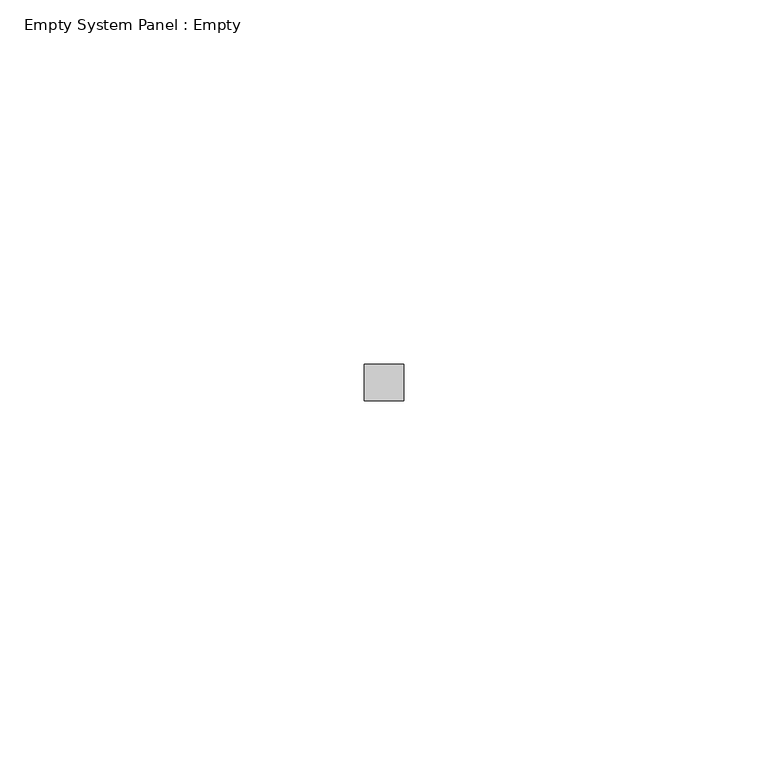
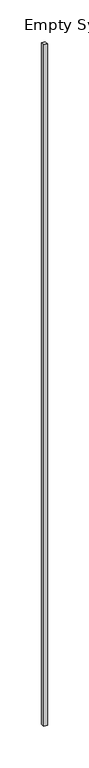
"""IFC4 building model written with IfcOpenShell, lengths in millimetres: plate geometry, Empty System Panel : Empty."""

import ifcopenshell
import ifcopenshell.guid

model = None  # the IFC model being written
_history = None  # IfcOwnerHistory: only IFC2X3 demands one
_inside = {}  # id of a spatial element -> (the spatial element, [elements in it])
_under = {}  # id of a project, library or spatial element -> (it, [spatial elements below it])
_declared = {}  # id of a project -> (the project, [libraries it declares])
_typed = {}  # id of a type object -> (the type object, [elements of that type])
_made_of = {}  # id of a material, layer set ... -> (it, [elements and type objects made of it])


def new_model(schema):
    """Start an empty IFC model of exactly this schema.

    Asked for "IFC4X3", IfcOpenShell would pick the latest addendum, in which some entities
    have other attributes; the version numbers below select the first issue.
    IFC2X3 requires an IfcOwnerHistory on every rooted entity: one is made here for all.
    """
    global model, _history
    if schema == "IFC4X3":
        model = ifcopenshell.file(schema_version=(4, 3, 0, 0))
    else:
        model = ifcopenshell.file(schema=schema)
    _inside.clear()
    _under.clear()
    _declared.clear()
    _typed.clear()
    _made_of.clear()
    _history = None
    if model.schema == "IFC2X3":
        org = make("IfcOrganization", Name="unknown")
        user = make(
            "IfcPersonAndOrganization",
            ThePerson=make("IfcPerson", FamilyName="unknown"),
            TheOrganization=org,
        )
        app = make(
            "IfcApplication",
            ApplicationDeveloper=org,
            Version="unknown",
            ApplicationFullName="unknown",
            ApplicationIdentifier="unknown",
        )
        _history = make(
            "IfcOwnerHistory",
            OwningUser=user,
            OwningApplication=app,
            ChangeAction="ADDED",
            CreationDate=0,
        )
    return model


def make(cls, **values):
    """One entity of the class cls with the attributes given. An attribute that is None is left unset."""
    return model.create_entity(
        cls, **{name: value for name, value in values.items() if value is not None}
    )


def rooted(cls, **values):
    """An entity with a GlobalId (a new one), such as an element, a storey or a relation."""
    return make(cls, GlobalId=ifcopenshell.guid.new(), OwnerHistory=_history, **values)


def si_unit(unit_type, name, prefix=None):
    """IfcSIUnit, for example si_unit("LENGTHUNIT", "METRE", prefix="MILLI")."""
    return make("IfcSIUnit", UnitType=unit_type, Prefix=prefix, Name=name)


def assignment(units):
    """IfcUnitAssignment: the units of a project."""
    return None if units is None else make("IfcUnitAssignment", Units=units)


def point(xyz):
    """IfcCartesianPoint."""
    return None if xyz is None else make("IfcCartesianPoint", Coordinates=xyz)


def direction(xyz):
    """IfcDirection."""
    return None if xyz is None else make("IfcDirection", DirectionRatios=xyz)


def frame(location, z_axis=None, x_axis=None):
    """IfcAxis2Placement3D, a coordinate frame: its origin and axes. An axis left out is left unset."""
    return make(
        "IfcAxis2Placement3D",
        Location=point(location),
        Axis=direction(z_axis),
        RefDirection=direction(x_axis),
    )


def origin():
    """The frame at (0, 0, 0) with its axes left unset."""
    return frame((0.0, 0.0, 0.0))


def origin_with_axes():
    """The frame at (0, 0, 0) with the z axis (0, 0, 1) and the x axis (1, 0, 0) written out."""
    return frame((0.0, 0.0, 0.0), z_axis=(0.0, 0.0, 1.0), x_axis=(1.0, 0.0, 0.0))


def place(relative_to, where):
    """IfcLocalPlacement: puts the frame where relative to a parent placement (None: the world)."""
    return make(
        "IfcLocalPlacement", PlacementRelTo=relative_to, RelativePlacement=where
    )


def context(
    kind, dimensions, precision=None, world=None, true_north=None, identifier=None
):
    """IfcGeometricRepresentationContext, for example the 3D "Model" context."""
    return make(
        "IfcGeometricRepresentationContext",
        ContextIdentifier=identifier,
        ContextType=kind,
        CoordinateSpaceDimension=dimensions,
        Precision=precision,
        WorldCoordinateSystem=world,
        TrueNorth=true_north,
    )


def project(units=None, contexts=None):
    """IfcProject with its units and contexts."""
    return rooted(
        "IfcProject",
        Name="project",
        RepresentationContexts=contexts,
        UnitsInContext=assignment(units),
    )


def spatial(cls, under=None, at=None, **own):
    """A site, building, storey or space (cls), placed at a placement, below another one or the project."""
    s = rooted(cls, ObjectPlacement=at, **own)
    if under is not None:
        _under.setdefault(under.id(), (under, []))[1].append(s)
    return s


def polyline(points):
    """IfcPolyline through the points."""
    return make("IfcPolyline", Points=[point(p) for p in points])


def outline(outer, holes=None, kind="AREA"):
    """IfcArbitraryClosedProfileDef: a profile drawn as a closed curve; with holes, ...WithVoids."""
    if holes is None:
        return make("IfcArbitraryClosedProfileDef", ProfileType=kind, OuterCurve=outer)
    return make(
        "IfcArbitraryProfileDefWithVoids",
        ProfileType=kind,
        OuterCurve=outer,
        InnerCurves=holes,
    )


def extrude(swept, where, along, depth):
    """IfcExtrudedAreaSolid: the profile swept, set in the frame where, extruded along a direction by depth."""
    return make(
        "IfcExtrudedAreaSolid",
        SweptArea=swept,
        Position=where,
        ExtrudedDirection=direction(along),
        Depth=depth,
    )


def shape(context_of_items, identifier, shape_type, items):
    """IfcShapeRepresentation: the items that make up one representation, for example the "Body"."""
    return make(
        "IfcShapeRepresentation",
        ContextOfItems=context_of_items,
        RepresentationIdentifier=identifier,
        RepresentationType=shape_type,
        Items=items,
    )


def source(mapping_origin, context_of_items, identifier, shape_type, items):
    """IfcRepresentationMap: a shape defined once, which mapped items show again and again."""
    return make(
        "IfcRepresentationMap",
        MappingOrigin=mapping_origin,
        MappedRepresentation=shape(context_of_items, identifier, shape_type, items),
    )


def transform(
    local_origin,
    x_axis=None,
    y_axis=None,
    z_axis=None,
    scale=None,
    scale2=None,
    scale3=None,
    uniform=True,
):
    """IfcCartesianTransformationOperator3D, or its non-uniform kind. x_axis, y_axis, z_axis: its Axis1, 2, 3."""
    if uniform:
        return make(
            "IfcCartesianTransformationOperator3D",
            Axis1=direction(x_axis),
            Axis2=direction(y_axis),
            LocalOrigin=point(local_origin),
            Scale=scale,
            Axis3=direction(z_axis),
        )
    return make(
        "IfcCartesianTransformationOperator3DnonUniform",
        Axis1=direction(x_axis),
        Axis2=direction(y_axis),
        LocalOrigin=point(local_origin),
        Scale=scale,
        Axis3=direction(z_axis),
        Scale2=scale2,
        Scale3=scale3,
    )


def mapped(mapping_source, mapping_target):
    """IfcMappedItem: shows the shape of a source again, moved by a transform."""
    return make(
        "IfcMappedItem", MappingSource=mapping_source, MappingTarget=mapping_target
    )


def made_of(thing, what):
    """Note that an element or type object is made of a material, layer set ...; save() writes the relation."""
    if what is not None:
        _made_of.setdefault(what.id(), (what, []))[1].append(thing)
    return thing


def element(
    cls,
    number,
    at=None,
    inside=None,
    cuts=None,
    type_object=None,
    material=None,
    context=None,
    identifier="Body",
    shape_type=None,
    held_by="IfcProductDefinitionShape",
    body=None,
    shapes=None,
    **own,
):
    """One element of the class cls, such as IfcWall. Its Tag is "e" and its number.

    at: its placement. inside: the storey or other place that contains it. cuts: it is an
    opening in that element (IfcRelVoidsElement). A single representation is given by context,
    identifier, shape_type and body (its items); several are given by shapes. held_by: the class
    of the entity that holds the representations. save() writes the other relations.
    """
    e = rooted(cls, Tag="e%d" % number, ObjectPlacement=at, **own)
    if body is not None:
        shapes = [shape(context, identifier, shape_type, body)]
    if shapes is not None:
        e.Representation = make(held_by, Representations=shapes)
    if inside is not None:
        _inside.setdefault(inside.id(), (inside, []))[1].append(e)
    if cuts is not None:
        rooted(
            "IfcRelVoidsElement", RelatingBuildingElement=cuts, RelatedOpeningElement=e
        )
    if type_object is not None:
        _typed.setdefault(type_object.id(), (type_object, []))[1].append(e)
    return made_of(e, material)


def aggregate(whole, parts):
    """IfcRelAggregates: a whole, such as a stair, and the parts it consists of."""
    return rooted("IfcRelAggregates", RelatingObject=whole, RelatedObjects=parts)


def save(model, path):
    """Write the relations noted so far, then the file.

    IfcRelAggregates (storeys below a building ...), IfcRelContainedInSpatialStructure (elements
    in a storey), IfcRelDefinesByType, IfcRelAssociatesMaterial and IfcRelDeclares: one each for
    every whole, place, type object, material and project.
    """
    for whole, parts in _under.values():
        aggregate(whole, parts)
    for where, things in _inside.values():
        rooted(
            "IfcRelContainedInSpatialStructure",
            RelatedElements=things,
            RelatingStructure=where,
        )
    for kind, things in _typed.values():
        rooted("IfcRelDefinesByType", RelatedObjects=things, RelatingType=kind)
    for what, things in _made_of.values():
        rooted("IfcRelAssociatesMaterial", RelatedObjects=things, RelatingMaterial=what)
    for by, libraries in _declared.values():
        rooted("IfcRelDeclares", RelatingContext=by, RelatedDefinitions=libraries)
    model.write(path)


def empty_system_panel_empty_f535094f(model_context):
    return source(origin(), model_context, "Body", "SweptSolid", [
        extrude(outline(polyline([(2.6792996, 97.5), (-2.6792996, 97.5), (-2.6792996, 102.5), (2.6792996, 102.5), (2.6792996, 97.5)])), origin_with_axes(), (0.0, 0.0, 1.0), 1000.0),
    ])


if __name__ == "__main__":
    model = new_model("IFC4")
    model_context = context("Model", 3, world=origin())
    ifc_project = project(units=[si_unit("LENGTHUNIT", "METRE", prefix="MILLI")], contexts=[model_context])
    site = spatial("IfcSite", under=ifc_project)
    building = spatial("IfcBuilding", under=site)
    placement = place(None, origin())
    empty_system_panel_empty_shape = empty_system_panel_empty_f535094f(model_context)
    element("IfcPlate", 1, ObjectType="Empty System Panel : Empty", at=placement, inside=building, context=model_context, shape_type="MappedRepresentation", body=[
        mapped(empty_system_panel_empty_shape, transform((0.0, 0.0, 0.0), x_axis=(1.0, 0.0, 0.0), y_axis=(0.0, 1.0, 0.0), z_axis=(0.0, 0.0, 1.0))),
    ])
    save(model, "model.ifc")
